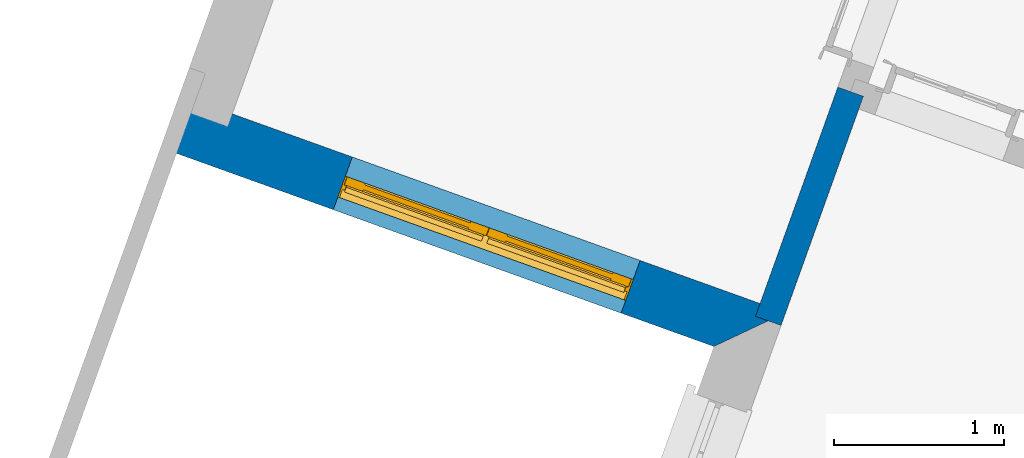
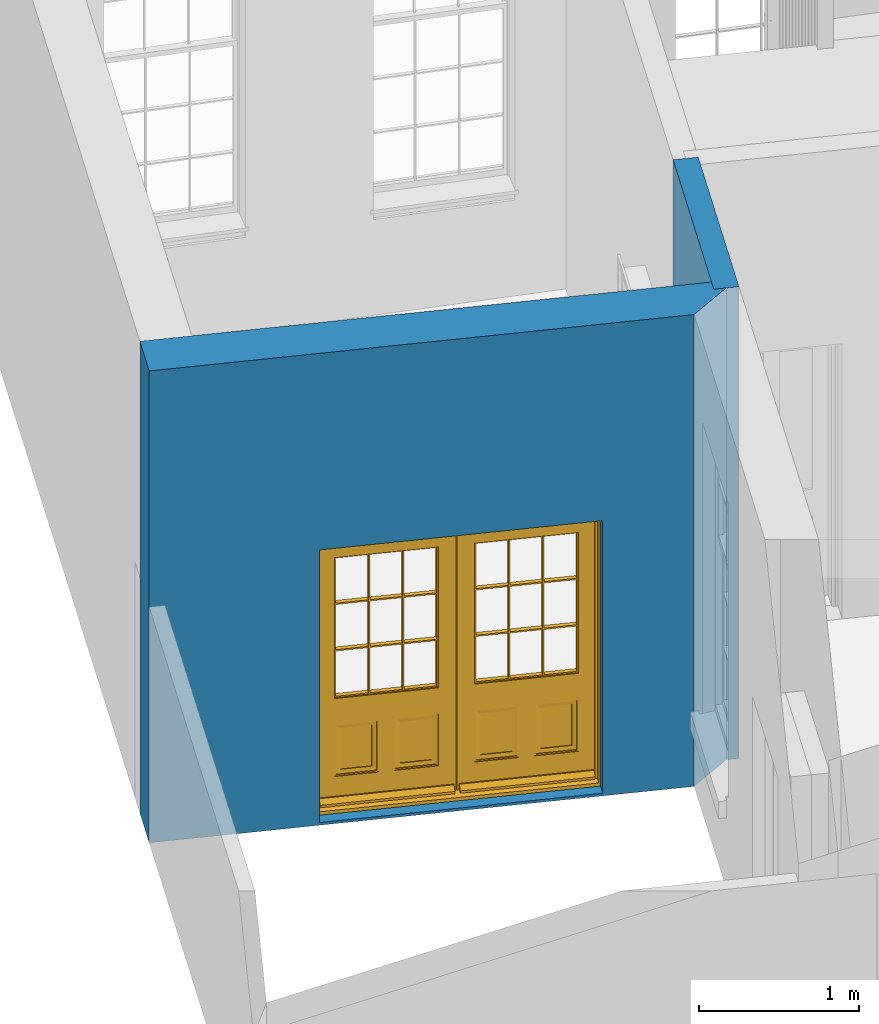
# One storey, part 3 of 7: 2 walls, 1 door, 1 opening.
"""IFC4 building model written with IfcOpenShell, lengths in metres."""

from ifc_helpers import new_model, si_unit, frame, origin, origin_with_axes, place, context, subcontext, project, spatial, polyline, outline, extrude, faceted_brep, source, transform, mapped, material, layer, layer_set, layer_usage, type_object, type_shapes, element, fill, save


model = new_model("IFC4")

# Units and contexts
model_context = context("Model", 3, world=origin_with_axes())
body_context = subcontext(model_context, "Body", "Model", "MODEL_VIEW")
ifc_project = project(units=[si_unit("PLANEANGLEUNIT", "RADIAN"), si_unit("MASSUNIT", "GRAM", prefix="KILO"), si_unit("FORCEUNIT", "NEWTON", prefix="KILO"), si_unit("LENGTHUNIT", "METRE"), si_unit("AREAUNIT", "SQUARE_METRE"), si_unit("VOLUMEUNIT", "CUBIC_METRE")], contexts=[model_context, model_context])

# Sites, building, storey
site_1_placement = place(None, origin_with_axes())
site_1 = spatial("IfcSite", under=ifc_project, at=site_1_placement, Name="Tamar")
site_2_placement = place(site_1_placement, origin_with_axes())
site_2 = spatial("IfcSite", under=site_1, at=site_2_placement, Name="Site plot-23", CompositionType="ELEMENT")
building_placement = place(None, origin_with_axes())
building = spatial("IfcBuilding", under=site_2, at=building_placement, Name="Building plot-23", CompositionType="ELEMENT")
storey_placement = place(None, frame((0.0, 0.0, 26.0), z_axis=(0.0, 0.0, 1.0), x_axis=(1.0, 0.0, 0.0)))
storey = spatial("IfcBuildingStorey", under=building, at=storey_placement, Name="plot-23 0", CompositionType="ELEMENT", Elevation=26.0)

# Wall, opening, door
ifc_material_1 = material(Name="Masonry")
ifc_layer_1 = layer(ifc_material_1, 0.33, ventilated=False)
ifc_layer_set_1 = layer_set([ifc_layer_1], Name="exterior_0.08_0.25")
ifc_layer_usage_1 = layer_usage(ifc_layer_set_1, "AXIS2", "POSITIVE", -0.25)
wall_type_1 = type_object("IfcWallType", Name="exterior_0.08_0.25", PredefinedType="SOLIDWALL", material=ifc_layer_set_1)
wall_1_placement = place(storey_placement, frame((260.566366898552, 278.32282302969, 0.0), z_axis=(0.0, 0.0, 1.0), x_axis=(0.94108716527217, -0.338164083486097, 0.0)))
wall_1 = element("IfcWall", 1, at=wall_1_placement, inside=storey, type_object=wall_type_1, material=ifc_layer_usage_1, Name="exterior", context=body_context, shape_type="SweptSolid", body=[
    extrude(outline(polyline([(-0.250000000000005, 0.0799999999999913), (-0.25000000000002, -0.249999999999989), (3.21053365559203, -0.250000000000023), (3.54053365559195, 0.0799999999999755), (-0.250000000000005, 0.0799999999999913)])), origin_with_axes(), (0.0, 0.0, 1.0), 3.6),
])
opening_placement = place(wall_1_placement, frame((0.830266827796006, 0.0, 0.0199999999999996)))
opening = element("IfcOpeningElement", 2, at=opening_placement, cuts=wall_1, Name="My Opening", ObjectType="Opening", context=body_context, shape_type="SweptSolid", body=[
    extrude(outline(polyline([(0.0, -0.269999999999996), (1.80000000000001, -0.270000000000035), (1.80000000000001, 1.09999999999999), (5.88418203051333e-15, 1.10000000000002), (0.0, -0.269999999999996)])), origin_with_axes(), (0.0, 0.0, 1.0), 2.08),
])
door_type = type_object("IfcDoorType", Name="door_panelled_double", OperationType="SINGLE_SWING_LEFT", PredefinedType="NOTDEFINED")
shared_shape = source(origin(), body_context, "Body", "Brep", [
    faceted_brep([(0.545, 0.195, 0.265), (0.745, 0.195, 0.265), (0.745, 0.2, 0.265), (0.545, 0.2, 0.265), (0.745, 0.2, 0.58), (0.545, 0.2, 0.58), (0.545, 0.195, 0.58), (0.515, 0.19, 0.235), (0.775, 0.19, 0.235), (0.745, 0.195, 0.58), (0.515, 0.19, 0.61), (0.515, 0.185, 0.235), (0.775, 0.185, 0.235), (0.775, 0.19, 0.61), (0.515, 0.185, 0.61), (0.785, 0.185, 0.225), (0.505, 0.185, 0.225), (0.775, 0.185, 0.61), (0.505, 0.185, 0.62), (0.785, 0.185, 0.62), (0.505, 0.18, 0.225), (0.785, 0.18, 0.225), (0.505, 0.18, 0.62), (0.785, 0.18, 0.62), (0.883, 0.18, 0.075), (0.898, 0.18, 0.075), (0.405, 0.18, 0.62), (0.405, 0.18, 0.225), (0.027, 0.18, 0.075), (0.785, 0.18, 0.82), (0.125, 0.18, 0.82), (0.405, 0.185, 0.62), (0.405, 0.185, 0.225), (0.898, 0.18, 2.068), (0.027, 0.17, 0.075), (0.883, 0.17, 0.075), (0.125, 0.18, 0.225), (0.012, 0.18, 0.075), (0.785, 0.19, 0.82), (0.125, 0.19, 0.82), (0.125, 0.18, 0.62), (0.125, 0.185, 0.62), (0.395, 0.185, 0.61), (0.395, 0.185, 0.235), (0.125, 0.185, 0.225), (0.785, 0.18, 1.895), (0.027, 0.14, 0.045), (0.883, 0.14, 0.045), (0.558333, 0.19, 0.83), (0.351667, 0.19, 0.83), (0.125, 0.18, 1.895), (0.125, 0.19, 1.895), (0.785, 0.19, 1.895), (0.012, 0.18, 2.068), (0.135, 0.185, 0.61), (0.395, 0.19, 0.61), (0.395, 0.19, 0.235), (0.135, 0.185, 0.235), (0.027, 0.14, 0.027), (0.883, 0.14, 0.027), (0.568333, 0.19, 0.83), (0.558333, 0.22, 0.83), (0.351667, 0.22, 0.83), (0.341667, 0.19, 0.83), (0.135, 0.19, 1.185), (0.135, 0.19, 1.53), (0.775, 0.19, 1.53), (0.775, 0.19, 1.185), (0.135, 0.19, 0.61), (0.365, 0.195, 0.58), (0.365, 0.195, 0.265), (0.135, 0.19, 0.235), (0.568333, 0.19, 1.175), (0.558333, 0.19, 1.175), (0.775, 0.19, 0.83), (0.558333, 0.22, 1.175), (0.785, 0.22, 0.82), (0.125, 0.22, 0.82), (0.351667, 0.22, 1.175), (0.351667, 0.19, 1.175), (0.341667, 0.19, 1.175), (0.135, 0.19, 0.83), (0.135, 0.19, 1.175), (0.135, 0.22, 1.185), (0.135, 0.22, 1.53), (0.135, 0.19, 1.54), (0.351667, 0.19, 1.885), (0.558333, 0.19, 1.885), (0.775, 0.22, 1.53), (0.775, 0.22, 1.185), (0.775, 0.19, 1.175), (0.775, 0.19, 1.54), (0.165, 0.195, 0.58), (0.365, 0.2, 0.58), (0.365, 0.2, 0.265), (0.165, 0.195, 0.265), (0.568333, 0.22, 0.83), (0.568333, 0.22, 1.175), (0.568333, 0.19, 1.185), (0.558333, 0.19, 1.185), (0.775, 0.22, 0.83), (0.785, 0.23, 0.82), (0.125, 0.23, 0.82), (0.341667, 0.22, 0.83), (0.341667, 0.22, 1.175), (0.351667, 0.19, 1.185), (0.341667, 0.19, 1.185), (0.135, 0.22, 0.83), (0.341667, 0.22, 1.185), (0.125, 0.22, 1.895), (0.341667, 0.22, 1.53), (0.341667, 0.19, 1.53), (0.135, 0.19, 1.885), (0.341667, 0.19, 1.54), (0.341667, 0.19, 1.885), (0.558333, 0.22, 1.885), (0.351667, 0.22, 1.885), (0.568333, 0.19, 1.885), (0.785, 0.22, 1.895), (0.568333, 0.22, 1.185), (0.568333, 0.19, 1.53), (0.568333, 0.22, 1.53), (0.568333, 0.19, 1.54), (0.775, 0.19, 1.885), (0.165, 0.2, 0.58), (0.165, 0.2, 0.265), (0.775, 0.22, 1.175), (0.558333, 0.19, 1.53), (0.351667, 0.22, 1.185), (0.558333, 0.22, 1.185), (0.505, 0.23, 0.62), (0.405, 0.23, 0.62), (0.125, 0.23, 1.895), (0.785, 0.23, 1.895), (0.351667, 0.19, 1.53), (0.135, 0.22, 1.175), (0.135, 0.22, 1.54), (0.341667, 0.22, 1.54), (0.135, 0.22, 1.885), (0.351667, 0.19, 1.54), (0.558333, 0.22, 1.54), (0.558333, 0.19, 1.54), (0.351667, 0.22, 1.54), (0.775, 0.22, 1.54), (0.568333, 0.22, 1.54), (0.775, 0.22, 1.885), (0.558333, 0.22, 1.53), (0.405, 0.23, 0.225), (0.505, 0.23, 0.225), (0.125, 0.23, 0.62), (0.785, 0.23, 0.62), (0.012, 0.23, 2.068), (0.898, 0.23, 2.068), (0.351667, 0.22, 1.53), (0.341667, 0.22, 1.885), (0.568333, 0.22, 1.885), (0.405, 0.225, 0.225), (0.405, 0.225, 0.62), (0.505, 0.225, 0.62), (0.505, 0.225, 0.225), (0.898, 0.23, 0.027), (0.012, 0.23, 0.027), (0.125, 0.225, 0.62), (0.785, 0.225, 0.62), (0.395, 0.225, 0.235), (0.395, 0.225, 0.61), (0.125, 0.23, 0.225), (0.125, 0.225, 0.225), (0.515, 0.225, 0.61), (0.515, 0.225, 0.235), (0.785, 0.23, 0.225), (0.785, 0.225, 0.225), (0.135, 0.225, 0.61), (0.775, 0.225, 0.61), (0.135, 0.225, 0.235), (0.395, 0.22, 0.235), (0.395, 0.22, 0.61), (0.515, 0.22, 0.61), (0.515, 0.22, 0.235), (0.775, 0.225, 0.235), (0.135, 0.22, 0.61), (0.775, 0.22, 0.61), (0.135, 0.22, 0.235), (0.365, 0.215, 0.265), (0.365, 0.215, 0.58), (0.545, 0.215, 0.58), (0.545, 0.215, 0.265), (0.775, 0.22, 0.235), (0.165, 0.215, 0.58), (0.745, 0.215, 0.58), (0.165, 0.215, 0.265), (0.365, 0.21, 0.58), (0.365, 0.21, 0.265), (0.545, 0.21, 0.58), (0.545, 0.21, 0.265), (0.745, 0.215, 0.265), (0.165, 0.21, 0.58), (0.745, 0.21, 0.58), (0.165, 0.21, 0.265), (0.745, 0.21, 0.265), (1.775, 0.178, 0.025), (0.025, 0.178, 0.025), (0.025, 0.15, 0.025), (1.775, 0.15, 0.025), (1.79, 0.23, 0.025), (0.01, 0.23, 0.025), (1.79, 0.178, 0.025), (1.8, 0.23, 0.0), (0.0, 0.23, 0.0), (0.01, 0.178, 0.025), (1.79, 0.178, 2.07), (1.79, 0.23, 2.07), (1.775, 0.178, 2.055), (1.8, 0.23, 2.08), (0.01, 0.23, 2.07), (0.0, 0.23, 2.08), (0.01, 0.178, 2.07), (0.025, 0.178, 2.055), (0.0, 0.1, 2.08), (1.8, 0.1, 2.08), (0.01, 0.1, 2.07), (1.79, 0.1, 2.07), (0.01, 0.15, 2.07), (1.79, 0.15, 2.07), (0.0, 0.1, 0.0), (1.8, 0.1, 0.0), (0.01, 0.1, 0.025), (1.79, 0.1, 0.025), (0.01, 0.15, 0.025), (0.025, 0.15, 2.055), (1.79, 0.15, 0.025), (1.775, 0.15, 2.055), (0.898, 0.18, 0.027), (0.012, 0.18, 0.027), (0.883, 0.18, 0.027), (0.027, 0.18, 0.027), (1.435, 0.195, 0.265), (1.635, 0.195, 0.265), (1.635, 0.2, 0.265), (1.435, 0.2, 0.265), (1.635, 0.2, 0.58), (1.435, 0.2, 0.58), (1.435, 0.195, 0.58), (1.405, 0.19, 0.235), (1.665, 0.19, 0.235), (1.635, 0.195, 0.58), (1.405, 0.19, 0.61), (1.405, 0.185, 0.235), (1.665, 0.185, 0.235), (1.665, 0.19, 0.61), (1.405, 0.185, 0.61), (1.675, 0.185, 0.225), (1.395, 0.185, 0.225), (1.665, 0.185, 0.61), (1.395, 0.185, 0.62), (1.675, 0.185, 0.62), (1.395, 0.18, 0.225), (1.675, 0.18, 0.225), (1.395, 0.18, 0.62), (1.675, 0.18, 0.62), (1.773, 0.18, 0.075), (1.788, 0.18, 0.075), (1.295, 0.18, 0.62), (1.295, 0.18, 0.225), (0.917, 0.18, 0.075), (1.675, 0.18, 0.82), (1.015, 0.18, 0.82), (1.295, 0.185, 0.62), (1.295, 0.185, 0.225), (1.788, 0.18, 2.068), (0.917, 0.17, 0.075), (1.773, 0.17, 0.075), (1.015, 0.18, 0.225), (0.902, 0.18, 0.075), (1.675, 0.19, 0.82), (1.015, 0.19, 0.82), (1.015, 0.18, 0.62), (1.015, 0.185, 0.62), (1.285, 0.185, 0.61), (1.285, 0.185, 0.235), (1.015, 0.185, 0.225), (1.675, 0.18, 1.895), (0.917, 0.14, 0.045), (1.773, 0.14, 0.045), (1.448333, 0.19, 0.83), (1.241667, 0.19, 0.83), (1.015, 0.18, 1.895), (1.015, 0.19, 1.895), (1.675, 0.19, 1.895), (0.902, 0.18, 2.068), (1.025, 0.185, 0.61), (1.285, 0.19, 0.61), (1.285, 0.19, 0.235), (1.025, 0.185, 0.235), (0.917, 0.14, 0.027), (1.773, 0.14, 0.027), (1.458333, 0.19, 0.83), (1.448333, 0.22, 0.83), (1.241667, 0.22, 0.83), (1.231667, 0.19, 0.83), (1.025, 0.19, 1.185), (1.025, 0.19, 1.53), (1.665, 0.19, 1.53), (1.665, 0.19, 1.185), (1.025, 0.19, 0.61), (1.255, 0.195, 0.58), (1.255, 0.195, 0.265), (1.025, 0.19, 0.235), (1.458333, 0.19, 1.175), (1.448333, 0.19, 1.175), (1.665, 0.19, 0.83), (1.448333, 0.22, 1.175), (1.675, 0.22, 0.82), (1.015, 0.22, 0.82), (1.241667, 0.22, 1.175), (1.241667, 0.19, 1.175), (1.231667, 0.19, 1.175), (1.025, 0.19, 0.83), (1.025, 0.19, 1.175), (1.025, 0.22, 1.185), (1.025, 0.22, 1.53), (1.025, 0.19, 1.54), (1.241667, 0.19, 1.885), (1.448333, 0.19, 1.885), (1.665, 0.22, 1.53), (1.665, 0.22, 1.185), (1.665, 0.19, 1.175), (1.665, 0.19, 1.54), (1.055, 0.195, 0.58), (1.255, 0.2, 0.58), (1.255, 0.2, 0.265), (1.055, 0.195, 0.265), (1.458333, 0.22, 0.83), (1.458333, 0.22, 1.175), (1.458333, 0.19, 1.185), (1.448333, 0.19, 1.185), (1.665, 0.22, 0.83), (1.675, 0.23, 0.82), (1.015, 0.23, 0.82), (1.231667, 0.22, 0.83), (1.231667, 0.22, 1.175), (1.241667, 0.19, 1.185), (1.231667, 0.19, 1.185), (1.025, 0.22, 0.83), (1.231667, 0.22, 1.185), (1.015, 0.22, 1.895), (1.231667, 0.22, 1.53), (1.231667, 0.19, 1.53), (1.025, 0.19, 1.885), (1.231667, 0.19, 1.54), (1.231667, 0.19, 1.885), (1.448333, 0.22, 1.885), (1.241667, 0.22, 1.885), (1.458333, 0.19, 1.885), (1.675, 0.22, 1.895), (1.458333, 0.22, 1.185), (1.458333, 0.19, 1.53), (1.458333, 0.22, 1.53), (1.458333, 0.19, 1.54), (1.665, 0.19, 1.885), (1.055, 0.2, 0.58), (1.055, 0.2, 0.265), (1.665, 0.22, 1.175), (1.448333, 0.19, 1.53), (1.241667, 0.22, 1.185), (1.448333, 0.22, 1.185), (1.395, 0.23, 0.62), (1.295, 0.23, 0.62), (1.015, 0.23, 1.895), (1.675, 0.23, 1.895), (1.241667, 0.19, 1.53), (1.025, 0.22, 1.175), (1.025, 0.22, 1.54), (1.231667, 0.22, 1.54), (1.025, 0.22, 1.885), (1.241667, 0.19, 1.54), (1.448333, 0.22, 1.54), (1.448333, 0.19, 1.54), (1.241667, 0.22, 1.54), (1.665, 0.22, 1.54), (1.458333, 0.22, 1.54), (1.665, 0.22, 1.885), (1.448333, 0.22, 1.53), (1.295, 0.23, 0.225), (1.395, 0.23, 0.225), (1.015, 0.23, 0.62), (1.675, 0.23, 0.62), (0.902, 0.23, 2.068), (1.788, 0.23, 2.068), (1.241667, 0.22, 1.53), (1.231667, 0.22, 1.885), (1.458333, 0.22, 1.885), (1.295, 0.225, 0.225), (1.295, 0.225, 0.62), (1.395, 0.225, 0.62), (1.395, 0.225, 0.225), (1.788, 0.23, 0.027), (0.902, 0.23, 0.027), (1.015, 0.225, 0.62), (1.675, 0.225, 0.62), (1.285, 0.225, 0.235), (1.285, 0.225, 0.61), (1.015, 0.23, 0.225), (1.015, 0.225, 0.225), (1.405, 0.225, 0.61), (1.405, 0.225, 0.235), (1.675, 0.23, 0.225), (1.675, 0.225, 0.225), (1.025, 0.225, 0.61), (1.665, 0.225, 0.61), (1.025, 0.225, 0.235), (1.285, 0.22, 0.235), (1.285, 0.22, 0.61), (1.405, 0.22, 0.61), (1.405, 0.22, 0.235), (1.665, 0.225, 0.235), (1.025, 0.22, 0.61), (1.665, 0.22, 0.61), (1.025, 0.22, 0.235), (1.255, 0.215, 0.265), (1.255, 0.215, 0.58), (1.435, 0.215, 0.58), (1.435, 0.215, 0.265), (1.665, 0.22, 0.235), (1.055, 0.215, 0.58), (1.635, 0.215, 0.58), (1.055, 0.215, 0.265), (1.255, 0.21, 0.58), (1.255, 0.21, 0.265), (1.435, 0.21, 0.58), (1.435, 0.21, 0.265), (1.635, 0.215, 0.265), (1.055, 0.21, 0.58), (1.635, 0.21, 0.58), (1.055, 0.21, 0.265), (1.635, 0.21, 0.265), (1.788, 0.18, 0.027), (0.902, 0.18, 0.027), (1.773, 0.18, 0.027), (0.917, 0.18, 0.027)], [[[0, 1, 2, 3]], [[2, 4, 5, 3]], [[0, 3, 5, 6]], [[1, 0, 7, 8]], [[9, 4, 2, 1]], [[9, 6, 5, 4]], [[0, 6, 10, 7]], [[8, 7, 11, 12]], [[8, 13, 9, 1]], [[13, 10, 6, 9]], [[7, 10, 14, 11]], [[15, 12, 11, 16]], [[12, 17, 13, 8]], [[17, 14, 10, 13]], [[18, 16, 11, 14]], [[15, 19, 17, 12]], [[15, 16, 20, 21]], [[14, 17, 19, 18]], [[16, 18, 22, 20]], [[21, 23, 19, 15]], [[24, 25, 21, 20]], [[23, 22, 18, 19]], [[20, 22, 26, 27]], [[23, 21, 25]], [[28, 24, 20, 27]], [[22, 23, 29]], [[29, 30, 26, 22]], [[27, 26, 31, 32]], [[23, 25, 33, 29]], [[34, 35, 24, 28]], [[28, 27, 36, 37]], [[38, 39, 30, 29]], [[26, 30, 40]], [[26, 40, 41, 31]], [[42, 43, 32, 31]], [[32, 44, 36, 27]], [[33, 45, 29]], [[46, 47, 35, 34]], [[36, 40, 37]], [[39, 38, 48, 49]], [[50, 30, 39, 51]], [[29, 45, 52, 38]], [[53, 37, 40, 30]], [[44, 41, 40, 36]], [[31, 41, 54, 42]], [[43, 42, 55, 56]], [[57, 44, 32, 43]], [[50, 45, 33, 53]], [[47, 46, 58, 59]], [[60, 48, 38]], [[49, 48, 61, 62]], [[49, 63, 39]], [[50, 53, 30]], [[51, 39, 64, 65]], [[45, 50, 51, 52]], [[66, 67, 38, 52]], [[57, 54, 41, 44]], [[42, 54, 68, 55]], [[56, 55, 69, 70]], [[56, 71, 57, 43]], [[60, 72, 73, 48]], [[60, 38, 74]], [[48, 73, 75, 61]], [[76, 77, 62, 61]], [[62, 78, 79, 49]], [[49, 79, 80, 63]], [[63, 81, 39]], [[82, 64, 39]], [[65, 64, 83, 84]], [[85, 51, 65]], [[52, 51, 86, 87]], [[88, 89, 67, 66]], [[90, 38, 67]], [[91, 66, 52]], [[71, 68, 54, 57]], [[55, 68, 92, 69]], [[69, 93, 94, 70]], [[70, 95, 71, 56]], [[96, 97, 72, 60]], [[73, 72, 98, 99]], [[74, 38, 90]], [[100, 96, 60, 74]], [[75, 73, 79, 78]], [[61, 75, 97, 96]], [[101, 102, 77, 76]], [[77, 103, 62]], [[96, 76, 61]], [[103, 104, 78, 62]], [[80, 79, 105, 106]], [[63, 80, 104, 103]], [[81, 63, 103, 107]], [[81, 82, 39]], [[106, 64, 82, 80]], [[106, 108, 83, 64]], [[84, 83, 77, 109]], [[110, 111, 65, 84]], [[112, 51, 85]], [[113, 85, 65, 111]], [[114, 86, 51]], [[115, 87, 86, 116]], [[117, 52, 87]], [[118, 76, 89, 88]], [[119, 98, 67, 89]], [[120, 121, 88, 66]], [[67, 98, 72, 90]], [[91, 122, 120, 66]], [[91, 52, 123]], [[95, 92, 68, 71]], [[69, 92, 124, 93]], [[94, 93, 124, 125]], [[94, 125, 95, 70]], [[72, 97, 126, 90]], [[127, 99, 98, 120]], [[99, 105, 79, 73]], [[74, 90, 126, 100]], [[96, 100, 76]], [[128, 129, 75, 78]], [[97, 75, 129, 119]], [[130, 131, 102, 101]], [[109, 77, 102, 132]], [[133, 101, 76, 118]], [[77, 107, 103]], [[78, 104, 108, 128]], [[111, 106, 105, 134]], [[104, 80, 82, 135]], [[107, 135, 82, 81]], [[110, 108, 106, 111]], [[104, 135, 83, 108]], [[83, 135, 77]], [[136, 84, 109]], [[110, 84, 136, 137]], [[114, 51, 112]], [[85, 136, 138, 112]], [[113, 137, 136, 85]], [[111, 134, 139, 113]], [[86, 114, 113, 139]], [[140, 141, 87, 115]], [[139, 142, 116, 86]], [[109, 118, 115, 116]], [[117, 123, 52]], [[117, 87, 141, 122]], [[126, 89, 76]], [[143, 118, 88]], [[120, 98, 119, 121]], [[119, 89, 126, 97]], [[144, 143, 88, 121]], [[144, 122, 91, 143]], [[127, 120, 122, 141]], [[143, 91, 123, 145]], [[124, 92, 95, 125]], [[146, 129, 99, 127]], [[99, 129, 128, 105]], [[100, 126, 76]], [[121, 119, 129, 146]], [[147, 131, 130, 148]], [[131, 149, 102]], [[130, 101, 150]], [[102, 151, 132]], [[118, 109, 132, 133]], [[101, 133, 152]], [[107, 77, 135]], [[153, 128, 108, 110]], [[134, 105, 128, 153]], [[109, 138, 136]], [[153, 110, 137, 142]], [[154, 114, 112, 138]], [[137, 113, 114, 154]], [[141, 139, 134, 127]], [[141, 140, 142, 139]], [[144, 140, 115, 155]], [[142, 137, 154, 116]], [[155, 115, 118]], [[116, 154, 109]], [[117, 155, 145, 123]], [[122, 144, 155, 117]], [[143, 145, 118]], [[121, 146, 140, 144]], [[146, 127, 134, 153]], [[156, 157, 131, 147]], [[148, 130, 158, 159]], [[148, 160, 161, 147]], [[157, 162, 149, 131]], [[161, 151, 102, 149]], [[101, 152, 160, 150]], [[163, 158, 130, 150]], [[151, 152, 133, 132]], [[154, 138, 109]], [[142, 140, 146, 153]], [[145, 155, 118]], [[157, 156, 164, 165]], [[147, 166, 167, 156]], [[168, 169, 159, 158]], [[170, 148, 159, 171]], [[148, 170, 160]], [[166, 147, 161]], [[172, 162, 157, 165]], [[166, 149, 162, 167]], [[166, 161, 149]], [[150, 160, 170]], [[163, 173, 168, 158]], [[171, 163, 150, 170]], [[174, 164, 156, 167]], [[175, 176, 165, 164]], [[169, 168, 177, 178]], [[171, 159, 169, 179]], [[167, 162, 172, 174]], [[176, 180, 172, 165]], [[179, 173, 163, 171]], [[181, 177, 168, 173]], [[164, 174, 182, 175]], [[183, 184, 176, 175]], [[178, 177, 185, 186]], [[179, 169, 178, 187]], [[174, 172, 180, 182]], [[184, 188, 180, 176]], [[187, 181, 173, 179]], [[189, 185, 177, 181]], [[175, 182, 190, 183]], [[191, 184, 183, 192]], [[185, 193, 194, 186]], [[187, 178, 186, 195]], [[182, 180, 188, 190]], [[191, 196, 188, 184]], [[195, 189, 181, 187]], [[197, 193, 185, 189]], [[183, 190, 198, 192]], [[198, 196, 191, 192]], [[194, 193, 197, 199]], [[195, 186, 194, 199]], [[188, 196, 198, 190]], [[197, 189, 195, 199]], [[200, 201, 202, 203]], [[201, 200, 204, 205]], [[206, 204, 200]], [[204, 207, 208, 205]], [[209, 201, 205]], [[210, 211, 204, 206]], [[206, 200, 212, 210]], [[211, 213, 207, 204]], [[214, 205, 208, 215]], [[216, 217, 201, 209]], [[205, 214, 216, 209]], [[216, 214, 211, 210]], [[210, 212, 217, 216]], [[214, 215, 213, 211]], [[218, 219, 213, 215]], [[219, 218, 220, 221]], [[221, 220, 222, 223]], [[215, 208, 224, 218]], [[225, 224, 208, 207]], [[224, 226, 220, 218]], [[224, 225, 227, 226]], [[219, 225, 207, 213]], [[228, 222, 220, 226]], [[219, 221, 227, 225]], [[226, 227, 203, 202]], [[202, 229, 222, 228]], [[228, 226, 202]], [[227, 221, 223, 230]], [[230, 203, 227]], [[217, 229, 202, 201]], [[231, 223, 222, 229]], [[230, 223, 231, 203]], [[231, 229, 217, 212]], [[212, 200, 203, 231]], [[33, 152, 151, 53]], [[25, 160, 152, 33]], [[161, 37, 53, 151]], [[232, 160, 25]], [[161, 233, 37]], [[160, 232, 234]], [[24, 234, 232, 25]], [[233, 161, 235]], [[37, 233, 235, 28]], [[161, 160, 234, 235]], [[35, 47, 234, 24]], [[28, 235, 46, 34]], [[58, 235, 234, 59]], [[59, 234, 47]], [[58, 46, 235]], [[236, 237, 238, 239]], [[238, 240, 241, 239]], [[236, 239, 241, 242]], [[237, 236, 243, 244]], [[245, 240, 238, 237]], [[245, 242, 241, 240]], [[236, 242, 246, 243]], [[244, 243, 247, 248]], [[244, 249, 245, 237]], [[249, 246, 242, 245]], [[243, 246, 250, 247]], [[251, 248, 247, 252]], [[248, 253, 249, 244]], [[253, 250, 246, 249]], [[254, 252, 247, 250]], [[251, 255, 253, 248]], [[251, 252, 256, 257]], [[250, 253, 255, 254]], [[252, 254, 258, 256]], [[257, 259, 255, 251]], [[260, 261, 257, 256]], [[259, 258, 254, 255]], [[256, 258, 262, 263]], [[259, 257, 261]], [[264, 260, 256, 263]], [[258, 259, 265]], [[265, 266, 262, 258]], [[263, 262, 267, 268]], [[259, 261, 269, 265]], [[270, 271, 260, 264]], [[264, 263, 272, 273]], [[274, 275, 266, 265]], [[262, 266, 276]], [[262, 276, 277, 267]], [[278, 279, 268, 267]], [[268, 280, 272, 263]], [[269, 281, 265]], [[282, 283, 271, 270]], [[272, 276, 273]], [[275, 274, 284, 285]], [[286, 266, 275, 287]], [[265, 281, 288, 274]], [[289, 273, 276, 266]], [[280, 277, 276, 272]], [[267, 277, 290, 278]], [[279, 278, 291, 292]], [[293, 280, 268, 279]], [[286, 281, 269, 289]], [[283, 282, 294, 295]], [[296, 284, 274]], [[285, 284, 297, 298]], [[285, 299, 275]], [[286, 289, 266]], [[287, 275, 300, 301]], [[281, 286, 287, 288]], [[302, 303, 274, 288]], [[293, 290, 277, 280]], [[278, 290, 304, 291]], [[292, 291, 305, 306]], [[292, 307, 293, 279]], [[296, 308, 309, 284]], [[296, 274, 310]], [[284, 309, 311, 297]], [[312, 313, 298, 297]], [[298, 314, 315, 285]], [[285, 315, 316, 299]], [[299, 317, 275]], [[318, 300, 275]], [[301, 300, 319, 320]], [[321, 287, 301]], [[288, 287, 322, 323]], [[324, 325, 303, 302]], [[326, 274, 303]], [[327, 302, 288]], [[307, 304, 290, 293]], [[291, 304, 328, 305]], [[305, 329, 330, 306]], [[306, 331, 307, 292]], [[332, 333, 308, 296]], [[309, 308, 334, 335]], [[310, 274, 326]], [[336, 332, 296, 310]], [[311, 309, 315, 314]], [[297, 311, 333, 332]], [[337, 338, 313, 312]], [[313, 339, 298]], [[332, 312, 297]], [[339, 340, 314, 298]], [[316, 315, 341, 342]], [[299, 316, 340, 339]], [[317, 299, 339, 343]], [[317, 318, 275]], [[342, 300, 318, 316]], [[342, 344, 319, 300]], [[320, 319, 313, 345]], [[346, 347, 301, 320]], [[348, 287, 321]], [[349, 321, 301, 347]], [[350, 322, 287]], [[351, 323, 322, 352]], [[353, 288, 323]], [[354, 312, 325, 324]], [[355, 334, 303, 325]], [[356, 357, 324, 302]], [[303, 334, 308, 326]], [[327, 358, 356, 302]], [[327, 288, 359]], [[331, 328, 304, 307]], [[305, 328, 360, 329]], [[330, 329, 360, 361]], [[330, 361, 331, 306]], [[308, 333, 362, 326]], [[363, 335, 334, 356]], [[335, 341, 315, 309]], [[310, 326, 362, 336]], [[332, 336, 312]], [[364, 365, 311, 314]], [[333, 311, 365, 355]], [[366, 367, 338, 337]], [[345, 313, 338, 368]], [[369, 337, 312, 354]], [[313, 343, 339]], [[314, 340, 344, 364]], [[347, 342, 341, 370]], [[340, 316, 318, 371]], [[343, 371, 318, 317]], [[346, 344, 342, 347]], [[340, 371, 319, 344]], [[319, 371, 313]], [[372, 320, 345]], [[346, 320, 372, 373]], [[350, 287, 348]], [[321, 372, 374, 348]], [[349, 373, 372, 321]], [[347, 370, 375, 349]], [[322, 350, 349, 375]], [[376, 377, 323, 351]], [[375, 378, 352, 322]], [[345, 354, 351, 352]], [[353, 359, 288]], [[353, 323, 377, 358]], [[362, 325, 312]], [[379, 354, 324]], [[356, 334, 355, 357]], [[355, 325, 362, 333]], [[380, 379, 324, 357]], [[380, 358, 327, 379]], [[363, 356, 358, 377]], [[379, 327, 359, 381]], [[360, 328, 331, 361]], [[382, 365, 335, 363]], [[335, 365, 364, 341]], [[336, 362, 312]], [[357, 355, 365, 382]], [[383, 367, 366, 384]], [[367, 385, 338]], [[366, 337, 386]], [[338, 387, 368]], [[354, 345, 368, 369]], [[337, 369, 388]], [[343, 313, 371]], [[389, 364, 344, 346]], [[370, 341, 364, 389]], [[345, 374, 372]], [[389, 346, 373, 378]], [[390, 350, 348, 374]], [[373, 349, 350, 390]], [[377, 375, 370, 363]], [[377, 376, 378, 375]], [[380, 376, 351, 391]], [[378, 373, 390, 352]], [[391, 351, 354]], [[352, 390, 345]], [[353, 391, 381, 359]], [[358, 380, 391, 353]], [[379, 381, 354]], [[357, 382, 376, 380]], [[382, 363, 370, 389]], [[392, 393, 367, 383]], [[384, 366, 394, 395]], [[384, 396, 397, 383]], [[393, 398, 385, 367]], [[397, 387, 338, 385]], [[337, 388, 396, 386]], [[399, 394, 366, 386]], [[387, 388, 369, 368]], [[390, 374, 345]], [[378, 376, 382, 389]], [[381, 391, 354]], [[393, 392, 400, 401]], [[383, 402, 403, 392]], [[404, 405, 395, 394]], [[406, 384, 395, 407]], [[384, 406, 396]], [[402, 383, 397]], [[408, 398, 393, 401]], [[402, 385, 398, 403]], [[402, 397, 385]], [[386, 396, 406]], [[399, 409, 404, 394]], [[407, 399, 386, 406]], [[410, 400, 392, 403]], [[411, 412, 401, 400]], [[405, 404, 413, 414]], [[407, 395, 405, 415]], [[403, 398, 408, 410]], [[412, 416, 408, 401]], [[415, 409, 399, 407]], [[417, 413, 404, 409]], [[400, 410, 418, 411]], [[419, 420, 412, 411]], [[414, 413, 421, 422]], [[415, 405, 414, 423]], [[410, 408, 416, 418]], [[420, 424, 416, 412]], [[423, 417, 409, 415]], [[425, 421, 413, 417]], [[411, 418, 426, 419]], [[427, 420, 419, 428]], [[421, 429, 430, 422]], [[423, 414, 422, 431]], [[418, 416, 424, 426]], [[427, 432, 424, 420]], [[431, 425, 417, 423]], [[433, 429, 421, 425]], [[419, 426, 434, 428]], [[434, 432, 427, 428]], [[430, 429, 433, 435]], [[431, 422, 430, 435]], [[424, 432, 434, 426]], [[433, 425, 431, 435]], [[269, 388, 387, 289]], [[261, 396, 388, 269]], [[397, 273, 289, 387]], [[436, 396, 261]], [[397, 437, 273]], [[396, 436, 438]], [[260, 438, 436, 261]], [[437, 397, 439]], [[273, 437, 439, 264]], [[397, 396, 438, 439]], [[271, 283, 438, 260]], [[264, 439, 282, 270]], [[294, 439, 438, 295]], [[295, 438, 283]], [[294, 282, 439]]]),
])
type_shapes(door_type, [shared_shape])
door_placement = place(storey_placement, frame((261.256416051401, 277.787963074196, 0.0199999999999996), z_axis=(0.0, 0.0, 1.0), x_axis=(1.6939568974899, -0.608695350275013, 0.0)))
door = element("IfcDoor", 3, at=door_placement, inside=storey, type_object=door_type, Name="living outside door", OverallHeight=2.08, OverallWidth=1.8, context=body_context, shape_type="MappedRepresentation", body=[
    mapped(shared_shape, transform((0.0, 0.0, 0.0), scale=1.0)),
])
fill(opening, door)

# Wall
ifc_material_2 = material(Name="Masonry")
ifc_layer_2 = layer(ifc_material_2, 0.16, ventilated=False)
ifc_layer_set_2 = layer_set([ifc_layer_2], Name="interior_0.08_0.08")
ifc_layer_usage_2 = layer_usage(ifc_layer_set_2, "AXIS2", "POSITIVE", -0.08)
wall_type_2 = type_object("IfcWallType", Name="interior_0.08_0.08", PredefinedType="SOLIDWALL", material=ifc_layer_set_2)
wall_2_placement = place(storey_placement, frame((263.823030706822, 277.152594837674, 0.0), z_axis=(0.0, 0.0, 1.0), x_axis=(0.338164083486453, 0.941087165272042, 0.0)))
element("IfcWall", 4, at=wall_2_placement, inside=storey, type_object=wall_type_2, material=ifc_layer_usage_2, Name="interior", context=body_context, shape_type="SweptSolid", body=[
    extrude(outline(polyline([(2.31685917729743e-14, 0.0799999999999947), (-2.31587945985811e-14, -0.0799999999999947), (1.43345843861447, -0.0799999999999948), (1.43345843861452, 0.0799999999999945), (2.31685917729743e-14, 0.0799999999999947)])), origin_with_axes(), (0.0, 0.0, 1.0), 3.6),
])

save(model, "model.ifc")
